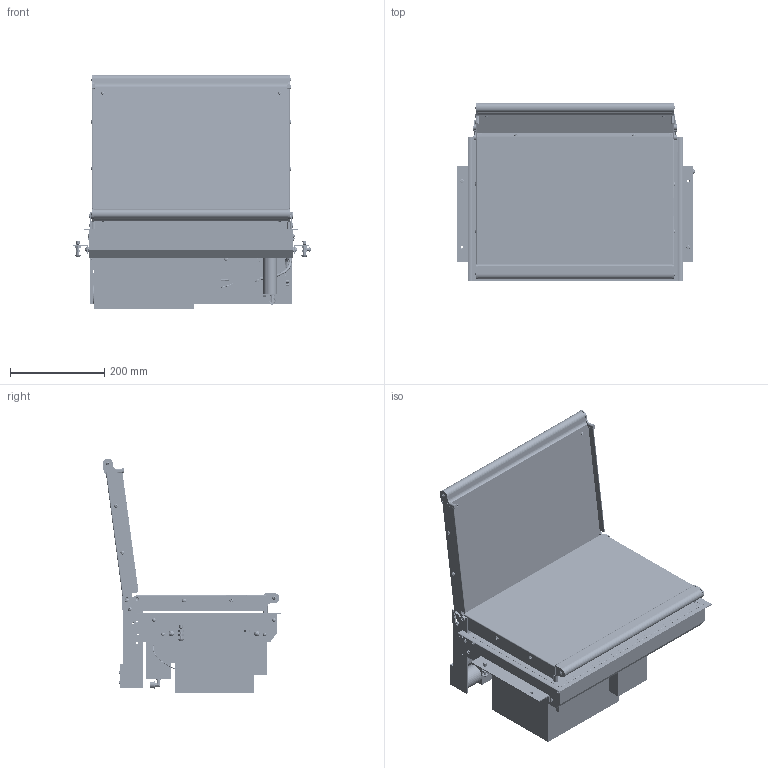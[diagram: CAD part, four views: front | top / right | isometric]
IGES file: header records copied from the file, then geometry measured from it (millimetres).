
Start section: SolidWorks IGES file using analytic representation for surfaces
Global section: file name: Y:\YLEISET\LYHYTAIKAISET SIIRROT\Jussi\iges\85 NDt.IGS; native system: SolidWorks 2012; preprocessor: SolidWorks 2012; author: janne; date: 131204.190750; units: millimetre
Bounding box: 503.81 x 378.4 x 497.83 mm (x, y, z)
Surface area: 3423729.2 mm2 (no closed solid volume)
Topology: 0 solids, 0 shells, 6501 faces, 75254 edges, 75216 vertices
Faces by surface type: bspline 3824, revolution 2677
